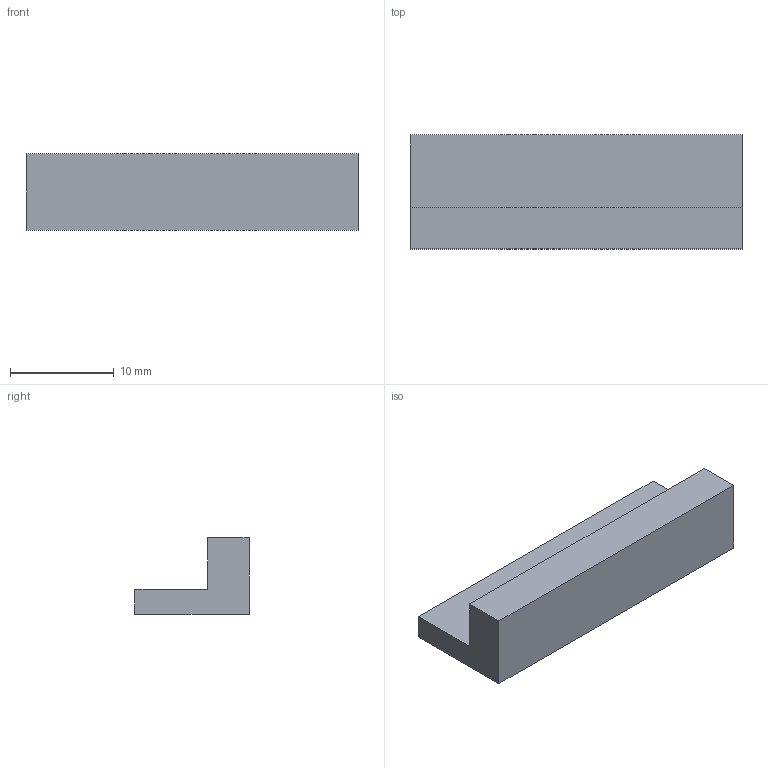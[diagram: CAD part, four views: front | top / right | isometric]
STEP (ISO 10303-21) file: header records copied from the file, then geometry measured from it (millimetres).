
FILE_DESCRIPTION(('Open CASCADE Model'),'2;1');
FILE_NAME('Open CASCADE Shape Model','2026-09-13T15:34:21',('Author'),( 'Open CASCADE'),'Open CASCADE STEP processor 7.9','build123d', 'Unknown');
FILE_SCHEMA(('AUTOMOTIVE_DESIGN { 1 0 10303 214 1 1 1 1 }'));
Length unit declared in the file: millimetre
Products named in the file (2): =>[0:1:1:2]; COMPOUND
Assembly tree (1 placements, depth 2):
  =>[0:1:1:2]
    COMPOUND
Bounding box: 32 x 11 x 7.4 mm (x, y, z)
Volume: 1484.8 mm3; surface area: 1270.4 mm2
Topology: 1 solids, 1 shells, 8 faces, 18 edges, 12 vertices
Faces by surface type: plane 8
Entity records: 482 total; most frequent: CARTESIAN_POINT 78, DIRECTION 72, LINE 52, VECTOR 52, ORIENTED_EDGE 36, PCURVE 36, DEFINITIONAL_REPRESENTATION 36, EDGE_CURVE 18
